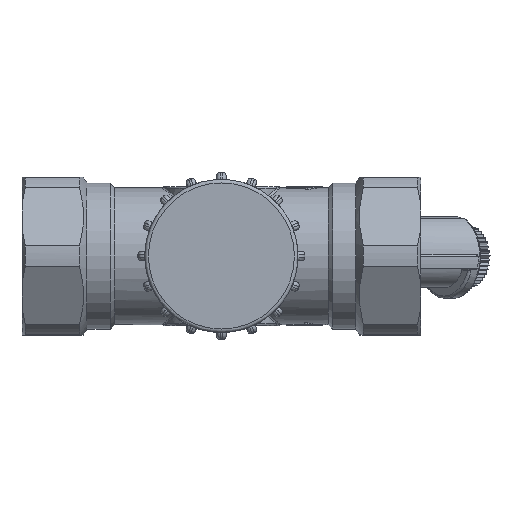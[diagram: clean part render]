
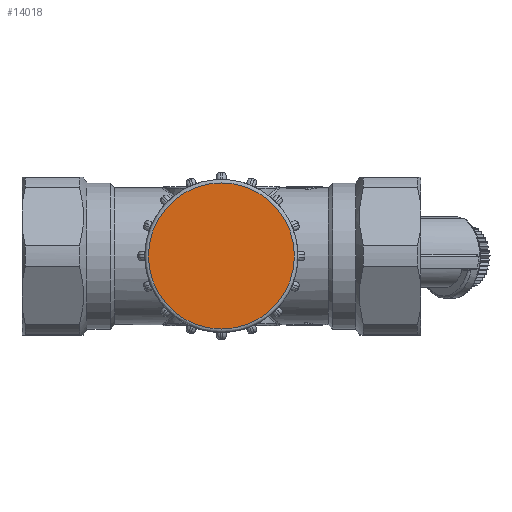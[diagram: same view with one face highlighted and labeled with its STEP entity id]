
A CAD part, top view. The second image highlights one B-rep face of the part: STEP entity #14018.
In plain terms, the highlighted planar face has unit normal (0, 0, 1).
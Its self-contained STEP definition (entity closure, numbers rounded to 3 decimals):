
#405=PLANE('',#15268);
#1126=FACE_OUTER_BOUND('',#1908,.T.);
#1908=EDGE_LOOP('',(#10850,#10851));
#2927=CIRCLE('',#15264,15.75);
#2928=CIRCLE('',#15265,15.75);
#5890=VERTEX_POINT('',#25575);
#5891=VERTEX_POINT('',#25577);
#7625=EDGE_CURVE('',#5890,#5891,#2927,.T.);
#7626=EDGE_CURVE('',#5891,#5890,#2928,.T.);
#10850=ORIENTED_EDGE('',*,*,#7626,.F.);
#10851=ORIENTED_EDGE('',*,*,#7625,.F.);
#14018=ADVANCED_FACE('',(#1126),#405,.T.);
#15264=AXIS2_PLACEMENT_3D('',#25578,#18145,#18146);
#15265=AXIS2_PLACEMENT_3D('',#25579,#18147,#18148);
#15268=AXIS2_PLACEMENT_3D('',#25598,#18161,#18162);
#18145=DIRECTION('center_axis',(0.,0.,-1.));
#18146=DIRECTION('ref_axis',(0.,-1.,0.));
#18147=DIRECTION('center_axis',(0.,0.,-1.));
#18148=DIRECTION('ref_axis',(0.,-1.,0.));
#18161=DIRECTION('center_axis',(0.,0.,1.));
#18162=DIRECTION('ref_axis',(1.,0.,0.));
#25575=CARTESIAN_POINT('',(23.036,7.667,25.5));
#25577=CARTESIAN_POINT('',(7.286,23.417,25.5));
#25578=CARTESIAN_POINT('Origin',(7.286,7.667,25.5));
#25579=CARTESIAN_POINT('Origin',(7.286,7.667,25.5));
#25598=CARTESIAN_POINT('Origin',(7.286,15.917,25.5));
